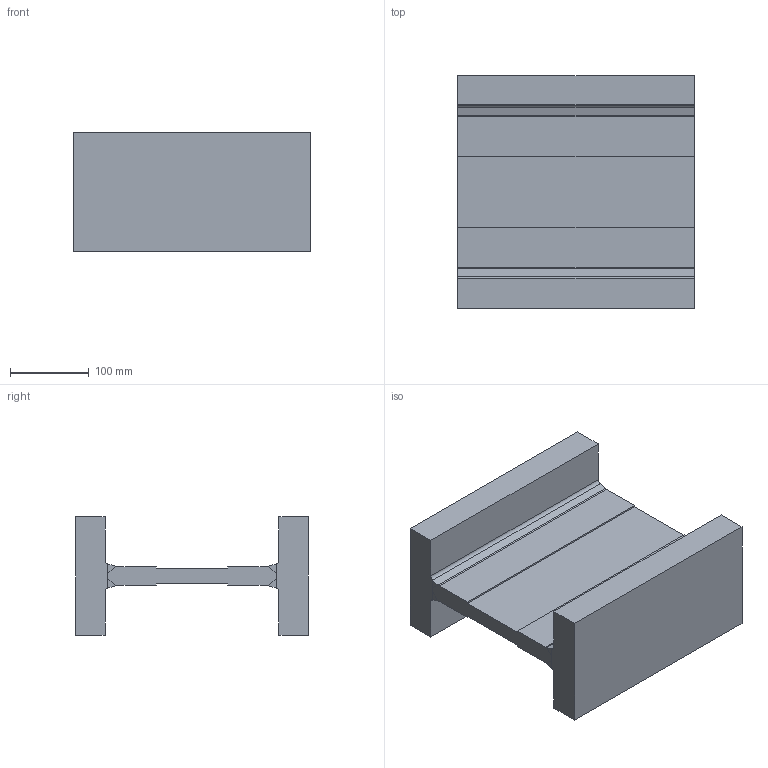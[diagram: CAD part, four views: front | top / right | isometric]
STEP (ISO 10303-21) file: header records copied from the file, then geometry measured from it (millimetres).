
FILE_DESCRIPTION((''),'2;1');
FILE_NAME('Z:\Kataloge\Katalog 109\Inventor-Dateien\Mammutrollen+MPI+MPU-Profile\ALFATEC_MPI_220_0816.stp','2009-11-09T16:00:04',('Kircher'),(''),'Autodesk Inventor 2010','Autodesk Inventor 2010','');
FILE_SCHEMA(('CONFIG_CONTROL_DESIGN'));
Length unit declared in the file: millimetre
Products named in the file (4): ALFATEC_MPI_220_0816; ALFATEC_MPI_220_0816-Teil 1; ALFATEC_MPI_220_0816-Teil 2; ALFATEC_MPI_220_0816-Teil 3
Assembly tree (3 placements, depth 2):
  ALFATEC_MPI_220_0816
    ALFATEC_MPI_220_0816-Teil 1
    ALFATEC_MPI_220_0816-Teil 2
    ALFATEC_MPI_220_0816-Teil 3
Bounding box: 300 x 295 x 150 mm (x, y, z)
Volume: 4875172.6 mm3; surface area: 440293.8 mm2
Topology: 7 solids, 7 shells, 62 faces, 144 edges, 96 vertices
Faces by surface type: plane 58, cylinder 4
Entity records: 1856 total; most frequent: CARTESIAN_POINT 309, DIRECTION 290, ORIENTED_EDGE 288, EDGE_CURVE 144, VECTOR 136, LINE 136, VERTEX_POINT 96, AXIS2_PLACEMENT_3D 77
